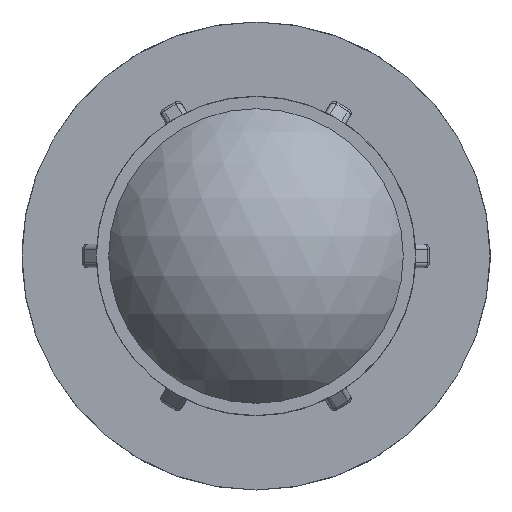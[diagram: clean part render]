
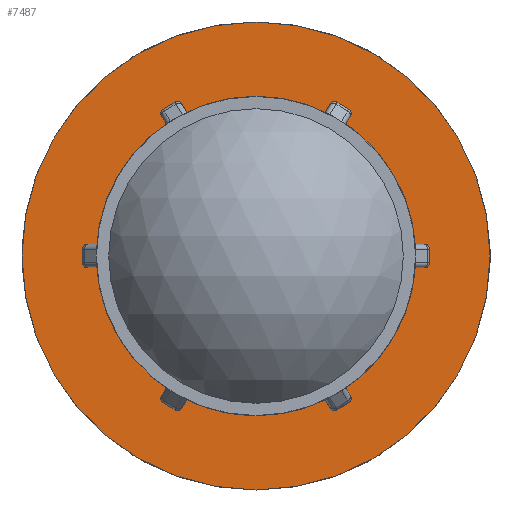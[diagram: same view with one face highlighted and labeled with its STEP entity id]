
A CAD part, left-side view. The second image highlights one B-rep face of the part: STEP entity #7487.
In plain terms, the highlighted planar face has unit normal (-1, 0, 0).
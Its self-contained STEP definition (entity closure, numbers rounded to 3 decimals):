
#23=FACE_BOUND('',#1402,.T.);
#105=ELLIPSE('',#7564,0.905,0.64);
#106=ELLIPSE('',#7585,0.905,0.64);
#109=ELLIPSE('',#7680,0.905,0.64);
#110=ELLIPSE('',#7701,0.905,0.64);
#113=ELLIPSE('',#7796,0.905,0.64);
#114=ELLIPSE('',#7817,0.905,0.64);
#117=ELLIPSE('',#7912,0.905,0.64);
#118=ELLIPSE('',#7933,0.905,0.64);
#121=ELLIPSE('',#8028,0.905,0.64);
#122=ELLIPSE('',#8049,0.905,0.64);
#126=ELLIPSE('',#8325,0.905,0.64);
#127=ELLIPSE('',#8346,0.905,0.64);
#279=PLANE('',#8402);
#931=FACE_OUTER_BOUND('',#1401,.T.);
#1401=EDGE_LOOP('',(#6788));
#1402=EDGE_LOOP('',(#6789,#6790,#6791,#6792,#6793,#6794,#6795,#6796,#6797,
#6798,#6799,#6800,#6801,#6802,#6803,#6804,#6805,#6806,#6807,#6808,#6809,
#6810,#6811,#6812));
#1449=LINE('',#11014,#1899);
#1508=LINE('',#11489,#1958);
#1567=LINE('',#11966,#2017);
#1626=LINE('',#12441,#2076);
#1685=LINE('',#12916,#2135);
#1834=LINE('',#14281,#2284);
#1899=VECTOR('',#8589,1.77);
#1958=VECTOR('',#8880,1.77);
#2017=VECTOR('',#9171,1.77);
#2076=VECTOR('',#9462,1.77);
#2135=VECTOR('',#9753,1.77);
#2284=VECTOR('',#10496,1.77);
#2711=CIRCLE('',#8216,20.82);
#2713=CIRCLE('',#8219,20.82);
#2715=CIRCLE('',#8222,20.82);
#2717=CIRCLE('',#8225,20.82);
#2719=CIRCLE('',#8228,20.82);
#2722=CIRCLE('',#8232,20.82);
#2812=CIRCLE('',#8403,30.5);
#2874=VERTEX_POINT('',#10994);
#2875=VERTEX_POINT('',#11006);
#2877=VERTEX_POINT('',#11012);
#2890=VERTEX_POINT('',#11069);
#2963=VERTEX_POINT('',#11469);
#2964=VERTEX_POINT('',#11481);
#2966=VERTEX_POINT('',#11487);
#2979=VERTEX_POINT('',#11544);
#3052=VERTEX_POINT('',#11946);
#3053=VERTEX_POINT('',#11958);
#3055=VERTEX_POINT('',#11964);
#3068=VERTEX_POINT('',#12021);
#3141=VERTEX_POINT('',#12421);
#3142=VERTEX_POINT('',#12433);
#3144=VERTEX_POINT('',#12439);
#3157=VERTEX_POINT('',#12496);
#3230=VERTEX_POINT('',#12896);
#3231=VERTEX_POINT('',#12908);
#3233=VERTEX_POINT('',#12914);
#3246=VERTEX_POINT('',#12971);
#3394=VERTEX_POINT('',#13939);
#3399=VERTEX_POINT('',#13976);
#3452=VERTEX_POINT('',#14273);
#3454=VERTEX_POINT('',#14279);
#3483=VERTEX_POINT('',#14452);
#3572=EDGE_CURVE('',#2875,#2874,#105,.F.);
#3575=EDGE_CURVE('',#2875,#2877,#1449,.T.);
#3600=EDGE_CURVE('',#2877,#2890,#106,.T.);
#3714=EDGE_CURVE('',#2964,#2963,#109,.F.);
#3717=EDGE_CURVE('',#2964,#2966,#1508,.T.);
#3742=EDGE_CURVE('',#2966,#2979,#110,.T.);
#3856=EDGE_CURVE('',#3053,#3052,#113,.F.);
#3859=EDGE_CURVE('',#3053,#3055,#1567,.T.);
#3884=EDGE_CURVE('',#3055,#3068,#114,.T.);
#3998=EDGE_CURVE('',#3142,#3141,#117,.F.);
#4001=EDGE_CURVE('',#3142,#3144,#1626,.T.);
#4026=EDGE_CURVE('',#3144,#3157,#118,.T.);
#4140=EDGE_CURVE('',#3231,#3230,#121,.F.);
#4143=EDGE_CURVE('',#3231,#3233,#1685,.T.);
#4168=EDGE_CURVE('',#3233,#3246,#122,.T.);
#4421=EDGE_CURVE('',#3394,#3230,#2711,.T.);
#4425=EDGE_CURVE('',#3246,#3141,#2713,.T.);
#4427=EDGE_CURVE('',#3157,#3052,#2715,.T.);
#4429=EDGE_CURVE('',#3068,#2963,#2717,.T.);
#4431=EDGE_CURVE('',#2979,#2874,#2719,.T.);
#4436=EDGE_CURVE('',#2890,#3399,#2722,.T.);
#4534=EDGE_CURVE('',#3452,#3399,#126,.F.);
#4537=EDGE_CURVE('',#3452,#3454,#1834,.T.);
#4561=EDGE_CURVE('',#3454,#3394,#127,.T.);
#4602=EDGE_CURVE('',#3483,#3483,#2812,.T.);
#6788=ORIENTED_EDGE('',*,*,#4602,.F.);
#6789=ORIENTED_EDGE('',*,*,#4436,.T.);
#6790=ORIENTED_EDGE('',*,*,#4534,.F.);
#6791=ORIENTED_EDGE('',*,*,#4537,.T.);
#6792=ORIENTED_EDGE('',*,*,#4561,.T.);
#6793=ORIENTED_EDGE('',*,*,#4421,.T.);
#6794=ORIENTED_EDGE('',*,*,#4140,.F.);
#6795=ORIENTED_EDGE('',*,*,#4143,.T.);
#6796=ORIENTED_EDGE('',*,*,#4168,.T.);
#6797=ORIENTED_EDGE('',*,*,#4425,.T.);
#6798=ORIENTED_EDGE('',*,*,#3998,.F.);
#6799=ORIENTED_EDGE('',*,*,#4001,.T.);
#6800=ORIENTED_EDGE('',*,*,#4026,.T.);
#6801=ORIENTED_EDGE('',*,*,#4427,.T.);
#6802=ORIENTED_EDGE('',*,*,#3856,.F.);
#6803=ORIENTED_EDGE('',*,*,#3859,.T.);
#6804=ORIENTED_EDGE('',*,*,#3884,.T.);
#6805=ORIENTED_EDGE('',*,*,#4429,.T.);
#6806=ORIENTED_EDGE('',*,*,#3714,.F.);
#6807=ORIENTED_EDGE('',*,*,#3717,.T.);
#6808=ORIENTED_EDGE('',*,*,#3742,.T.);
#6809=ORIENTED_EDGE('',*,*,#4431,.T.);
#6810=ORIENTED_EDGE('',*,*,#3572,.F.);
#6811=ORIENTED_EDGE('',*,*,#3575,.T.);
#6812=ORIENTED_EDGE('',*,*,#3600,.T.);
#7487=ADVANCED_FACE('',(#931,#23),#279,.T.);
#7564=AXIS2_PLACEMENT_3D('',#11008,#8583,#8584);
#7585=AXIS2_PLACEMENT_3D('',#11070,#8645,#8646);
#7680=AXIS2_PLACEMENT_3D('',#11483,#8874,#8875);
#7701=AXIS2_PLACEMENT_3D('',#11545,#8936,#8937);
#7796=AXIS2_PLACEMENT_3D('',#11960,#9165,#9166);
#7817=AXIS2_PLACEMENT_3D('',#12022,#9227,#9228);
#7912=AXIS2_PLACEMENT_3D('',#12435,#9456,#9457);
#7933=AXIS2_PLACEMENT_3D('',#12497,#9518,#9519);
#8028=AXIS2_PLACEMENT_3D('',#12910,#9747,#9748);
#8049=AXIS2_PLACEMENT_3D('',#12972,#9809,#9810);
#8216=AXIS2_PLACEMENT_3D('',#13940,#10236,#10237);
#8219=AXIS2_PLACEMENT_3D('',#13958,#10242,#10243);
#8222=AXIS2_PLACEMENT_3D('',#13961,#10248,#10249);
#8225=AXIS2_PLACEMENT_3D('',#13964,#10254,#10255);
#8228=AXIS2_PLACEMENT_3D('',#13967,#10260,#10261);
#8232=AXIS2_PLACEMENT_3D('',#13987,#10268,#10269);
#8325=AXIS2_PLACEMENT_3D('',#14275,#10490,#10491);
#8346=AXIS2_PLACEMENT_3D('',#14329,#10552,#10553);
#8402=AXIS2_PLACEMENT_3D('',#14451,#10677,#10678);
#8403=AXIS2_PLACEMENT_3D('',#14453,#10679,#10680);
#8583=DIRECTION('center_axis',(1.,0.,0.));
#8584=DIRECTION('ref_axis',(0.,0.5,-0.866));
#8589=DIRECTION('',(0.,0.866,0.5));
#8645=DIRECTION('center_axis',(1.,0.,0.));
#8646=DIRECTION('ref_axis',(0.,0.5,-0.866));
#8874=DIRECTION('center_axis',(1.,0.,0.));
#8875=DIRECTION('ref_axis',(0.,-0.5,-0.866));
#8880=DIRECTION('',(0.,0.866,-0.5));
#8936=DIRECTION('center_axis',(1.,0.,0.));
#8937=DIRECTION('ref_axis',(0.,-0.5,-0.866));
#9165=DIRECTION('center_axis',(1.,0.,0.));
#9166=DIRECTION('ref_axis',(0.,-1.,0.));
#9171=DIRECTION('',(0.,0.,-1.));
#9227=DIRECTION('center_axis',(1.,0.,0.));
#9228=DIRECTION('ref_axis',(0.,-1.,0.));
#9456=DIRECTION('center_axis',(1.,0.,0.));
#9457=DIRECTION('ref_axis',(0.,-0.5,0.866));
#9462=DIRECTION('',(0.,-0.866,-0.5));
#9518=DIRECTION('center_axis',(1.,0.,0.));
#9519=DIRECTION('ref_axis',(0.,-0.5,0.866));
#9747=DIRECTION('center_axis',(1.,0.,0.));
#9748=DIRECTION('ref_axis',(0.,0.5,0.866));
#9753=DIRECTION('',(0.,-0.866,0.5));
#9809=DIRECTION('center_axis',(1.,0.,0.));
#9810=DIRECTION('ref_axis',(0.,0.5,0.866));
#10236=DIRECTION('center_axis',(1.,0.,0.));
#10237=DIRECTION('ref_axis',(0.,0.,-1.));
#10242=DIRECTION('center_axis',(1.,0.,0.));
#10243=DIRECTION('ref_axis',(0.,0.,-1.));
#10248=DIRECTION('center_axis',(1.,0.,0.));
#10249=DIRECTION('ref_axis',(0.,0.,-1.));
#10254=DIRECTION('center_axis',(1.,0.,0.));
#10255=DIRECTION('ref_axis',(0.,0.,-1.));
#10260=DIRECTION('center_axis',(1.,0.,0.));
#10261=DIRECTION('ref_axis',(0.,0.,-1.));
#10268=DIRECTION('center_axis',(1.,0.,0.));
#10269=DIRECTION('ref_axis',(0.,0.,-1.));
#10490=DIRECTION('center_axis',(1.,0.,0.));
#10491=DIRECTION('ref_axis',(0.,1.,0.));
#10496=DIRECTION('',(0.,0.,1.));
#10552=DIRECTION('center_axis',(1.,0.,0.));
#10553=DIRECTION('ref_axis',(0.,1.,0.));
#10677=DIRECTION('center_axis',(-1.,0.,0.));
#10678=DIRECTION('ref_axis',(0.,0.,1.));
#10679=DIRECTION('center_axis',(1.,0.,0.));
#10680=DIRECTION('ref_axis',(0.,0.,-1.));
#10994=CARTESIAN_POINT('',(31.36,9.499,-18.527));
#11006=CARTESIAN_POINT('',(31.36,9.644,-18.473));
#11008=CARTESIAN_POINT('Origin',(31.36,9.191,-17.689));
#11012=CARTESIAN_POINT('',(31.36,11.176,-17.588));
#11014=CARTESIAN_POINT('',(31.36,21.848,-11.427));
#11069=CARTESIAN_POINT('',(31.36,11.295,-17.49));
#11070=CARTESIAN_POINT('Origin',(31.36,10.724,-16.804));
#11469=CARTESIAN_POINT('',(31.36,-11.295,-17.49));
#11481=CARTESIAN_POINT('',(31.36,-11.176,-17.588));
#11483=CARTESIAN_POINT('Origin',(31.36,-10.724,-16.804));
#11487=CARTESIAN_POINT('',(31.36,-9.644,-18.473));
#11489=CARTESIAN_POINT('',(31.36,1.027,-24.634));
#11544=CARTESIAN_POINT('',(31.36,-9.499,-18.527));
#11545=CARTESIAN_POINT('Origin',(31.36,-9.191,-17.689));
#11946=CARTESIAN_POINT('',(31.36,-20.794,1.037));
#11958=CARTESIAN_POINT('',(31.36,-20.82,0.885));
#11960=CARTESIAN_POINT('Origin',(31.36,-19.915,0.885));
#11964=CARTESIAN_POINT('',(31.36,-20.82,-0.885));
#11966=CARTESIAN_POINT('',(31.36,-20.82,0.));
#12021=CARTESIAN_POINT('',(31.36,-20.794,-1.037));
#12022=CARTESIAN_POINT('Origin',(31.36,-19.915,-0.885));
#12421=CARTESIAN_POINT('',(31.36,-9.499,18.527));
#12433=CARTESIAN_POINT('',(31.36,-9.644,18.473));
#12435=CARTESIAN_POINT('Origin',(31.36,-9.191,17.689));
#12439=CARTESIAN_POINT('',(31.36,-11.176,17.588));
#12441=CARTESIAN_POINT('',(31.36,1.028,24.634));
#12496=CARTESIAN_POINT('',(31.36,-11.295,17.49));
#12497=CARTESIAN_POINT('Origin',(31.36,-10.724,16.804));
#12896=CARTESIAN_POINT('',(31.36,11.295,17.49));
#12908=CARTESIAN_POINT('',(31.36,11.176,17.588));
#12910=CARTESIAN_POINT('Origin',(31.36,10.724,16.804));
#12914=CARTESIAN_POINT('',(31.36,9.644,18.473));
#12916=CARTESIAN_POINT('',(31.36,21.848,11.427));
#12971=CARTESIAN_POINT('',(31.36,9.499,18.527));
#12972=CARTESIAN_POINT('Origin',(31.36,9.191,17.689));
#13939=CARTESIAN_POINT('',(31.36,20.794,1.037));
#13940=CARTESIAN_POINT('Origin',(31.36,0.,0.));
#13958=CARTESIAN_POINT('Origin',(31.36,0.,0.));
#13961=CARTESIAN_POINT('Origin',(31.36,0.,0.));
#13964=CARTESIAN_POINT('Origin',(31.36,0.,0.));
#13967=CARTESIAN_POINT('Origin',(31.36,0.,0.));
#13976=CARTESIAN_POINT('',(31.36,20.794,-1.037));
#13987=CARTESIAN_POINT('Origin',(31.36,0.,0.));
#14273=CARTESIAN_POINT('',(31.36,20.82,-0.885));
#14275=CARTESIAN_POINT('Origin',(31.36,19.915,-0.885));
#14279=CARTESIAN_POINT('',(31.36,20.82,0.885));
#14281=CARTESIAN_POINT('',(31.36,20.82,0.));
#14329=CARTESIAN_POINT('Origin',(31.36,19.915,0.885));
#14451=CARTESIAN_POINT('Origin',(31.36,30.5,0.));
#14452=CARTESIAN_POINT('',(31.36,30.5,0.));
#14453=CARTESIAN_POINT('Origin',(31.36,0.,0.));
